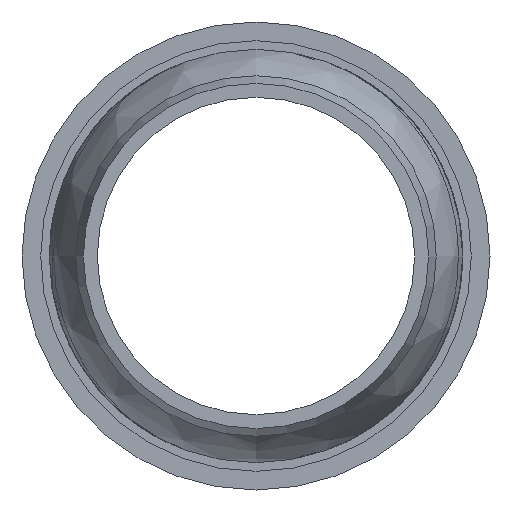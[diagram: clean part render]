
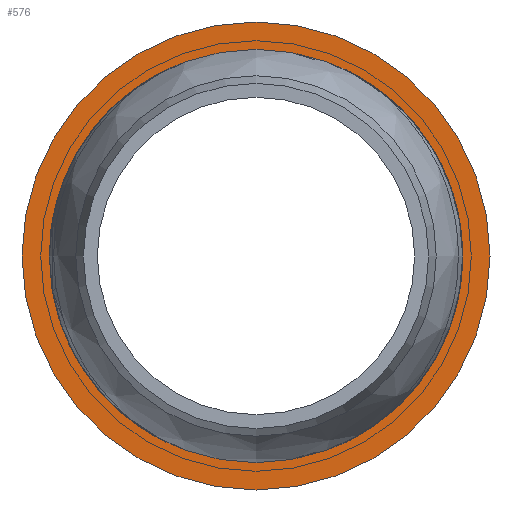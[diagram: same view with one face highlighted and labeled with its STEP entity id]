
A CAD part, left-side view. The second image highlights one B-rep face of the part: STEP entity #576.
In plain terms, the highlighted planar face has unit normal (-1, 0, 0).
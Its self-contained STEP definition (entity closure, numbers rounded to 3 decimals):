
#82=PLANE('',#641);
#113=FACE_BOUND('',#210,.T.);
#149=FACE_OUTER_BOUND('',#209,.T.);
#209=EDGE_LOOP('',(#490));
#210=EDGE_LOOP('',(#491));
#244=CIRCLE('',#640,28.15);
#245=CIRCLE('',#642,32.55);
#301=VERTEX_POINT('',#2075);
#302=VERTEX_POINT('',#2078);
#366=EDGE_CURVE('',#301,#301,#244,.T.);
#367=EDGE_CURVE('',#302,#302,#245,.T.);
#490=ORIENTED_EDGE('',*,*,#367,.F.);
#491=ORIENTED_EDGE('',*,*,#366,.T.);
#576=ADVANCED_FACE('',(#149,#113),#82,.T.);
#640=AXIS2_PLACEMENT_3D('',#2076,#760,#761);
#641=AXIS2_PLACEMENT_3D('',#2077,#762,#763);
#642=AXIS2_PLACEMENT_3D('',#2079,#764,#765);
#760=DIRECTION('center_axis',(1.,0.,0.));
#761=DIRECTION('ref_axis',(0.,0.,
1.));
#762=DIRECTION('center_axis',(-1.,0.,0.));
#763=DIRECTION('ref_axis',(0.,0.,-1.));
#764=DIRECTION('center_axis',(1.,0.,0.));
#765=DIRECTION('ref_axis',(0.,0.,
1.));
#2075=CARTESIAN_POINT('',(532.85,-28.15,0.));
#2076=CARTESIAN_POINT('Origin',(532.85,0.,
0.));
#2077=CARTESIAN_POINT('Origin',(532.85,-32.55,0.));
#2078=CARTESIAN_POINT('',(532.85,-32.55,0.));
#2079=CARTESIAN_POINT('Origin',(532.85,0.,
0.));
